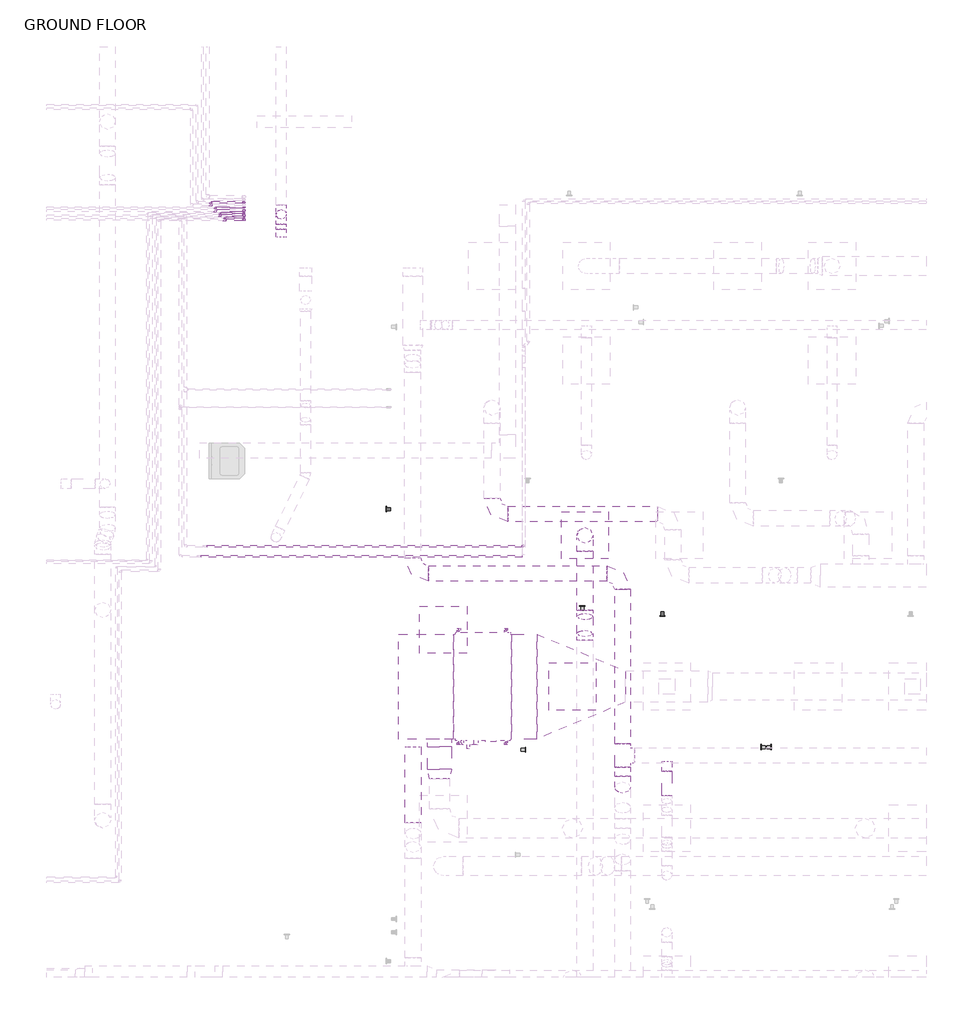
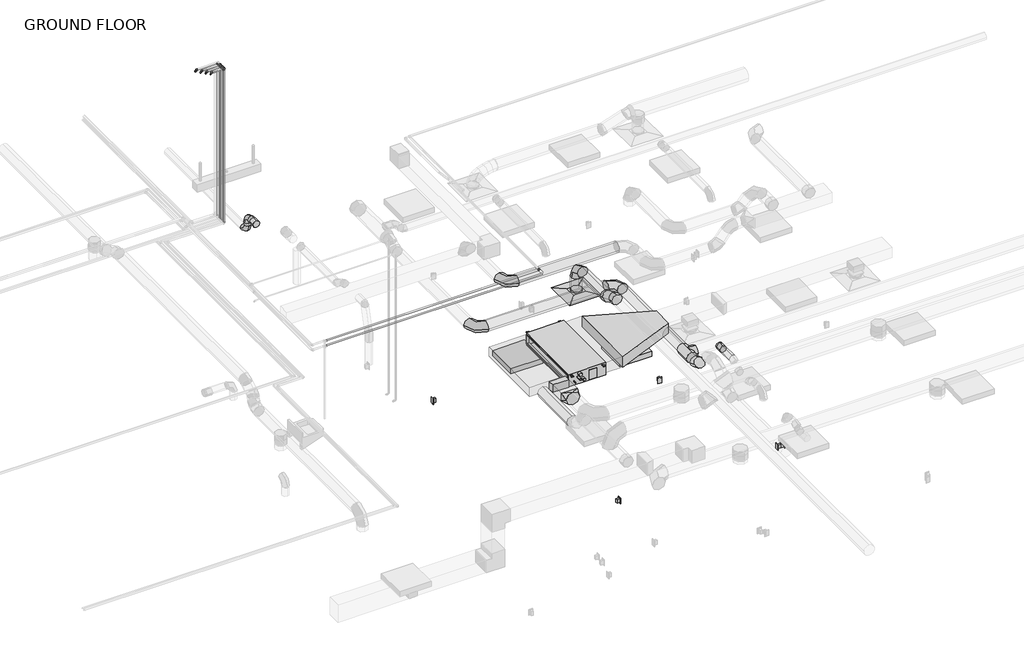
# One storey, part 13 of 20: 16 pipe fittings, 16 pipe segments, 15 duct fittings, 14 duct segments, 5 proxies, 2 light fixtures, 2 switching devices, 1 air terminal.
"""IFC4 building model written with IfcOpenShell, lengths in millimetres."""

from ifc_helpers import new_model, si_unit, point, frame, frame_2d, origin, place, context, project, spatial, polyline, circle_curve, trimmed, segment, composite_curve, outline, extrude, transform, mapped, element, save
from components import air_terminal_e9020785, mechanical_equipment_d478180c, duplex_receptacle_countertop_10251bba, rectangular_takeoff_standard_fde45e03, rectangular_transition_angle_45_degree_85914557, rectangular_to_round_transition_angle_45_degree_789dc1ad, round_elbow_1_d_9b139ee9, round_elbow_1_d_a253342a, round_elbow_1_d_c80420c1, round_elbow_1_d_ab3aa7ba, round_takeoff_standard_272bb003, round_takeoff_standard_fb854549, round_tee_standard_4a79b710, troffer_corner_insert_2x2_3lamp_e67c7f8f, elbow_generic_standard_c06ac706, elbow_generic_standard_738589b0, elbow_generic_standard_a088f956

model = new_model("IFC4")

# Units and contexts
model_context = context("Model", 3, world=origin())
ifc_project = project(units=[si_unit("LENGTHUNIT", "METRE", prefix="MILLI")], contexts=[model_context])

# Site, building, storey
site = spatial("IfcSite", under=ifc_project)
building = spatial("IfcBuilding", under=site)
storey = spatial("IfcBuildingStorey", under=building, Name="GROUND FLOOR", Elevation=30480.0)

# Air terminal
placement = place(None, origin())
air_terminal_shape = air_terminal_e9020785(model_context)
element("IfcAirTerminal", 1, ObjectType="Supply Diffuser - Rectangular Face Round Neck - Hosted : 24\"x24\" Face 8\" Neck - Hosted", at=placement, inside=storey, context=model_context, shape_type="MappedRepresentation", body=[
    mapped(air_terminal_shape, transform((-5028.2454607, 3334.7445005, 33223.2), x_axis=(0.0, -1.0, 0.0), y_axis=(-1.0, 0.0, 0.0), z_axis=(0.0, 0.0, -1.0))),
])

# Proxies
mechanical_equipment_shape = mechanical_equipment_d478180c(model_context)
element("IfcBuildingElementProxy", 2, Name="PEFY-P-NMAU-E_Medium_Static_Ducted : PEFY-P36NMAU-E", ObjectType="PEFY-P-NMAU-E_Medium_Static_Ducted : PEFY-P36NMAU-E", at=placement, inside=storey, context=model_context, shape_type="MappedRepresentation", body=[
    mapped(mechanical_equipment_shape, transform((-6407.5018914, 1372.1072576, 33458.15), x_axis=(0.0, -1.0, 0.0), y_axis=(1.0, 0.0, 0.0), z_axis=(0.0, 0.0, 1.0))),
])
duplex_receptacle_countertop_shape = duplex_receptacle_countertop_10251bba(model_context)
element("IfcBuildingElementProxy", 3, Name="Duplex Receptacle : Standard", ObjectType="Duplex Receptacle : Standard", at=placement, inside=storey, context=model_context, shape_type="MappedRepresentation", body=[
    mapped(duplex_receptacle_countertop_shape, transform((-2627.9454607, 600.4356606, 30937.2), x_axis=(0.0, 1.0, 0.0), y_axis=(0.0, 0.0, 1.0), z_axis=(1.0, 0.0, 0.0))),
])
element("IfcBuildingElementProxy", 4, Name="Duplex Receptacle : Standard", ObjectType="Duplex Receptacle : Standard", at=placement, inside=storey, context=model_context, shape_type="MappedRepresentation", body=[
    mapped(duplex_receptacle_countertop_shape, transform((-2751.7704607, 600.4356606, 30937.2), x_axis=(0.0, -1.0, 0.0), y_axis=(0.0, 0.0, 1.0), z_axis=(-1.0, 0.0, 0.0))),
])
element("IfcBuildingElementProxy", 5, Name="Duplex Receptacle : Standard", ObjectType="Duplex Receptacle : Standard", at=placement, inside=storey, context=model_context, shape_type="MappedRepresentation", body=[
    mapped(duplex_receptacle_countertop_shape, transform((-5799.7704607, 567.377149, 30937.2), x_axis=(0.0, 1.0, 0.0), y_axis=(0.0, 0.0, 1.0), z_axis=(1.0, 0.0, 0.0))),
])
element("IfcBuildingElementProxy", 6, Name="Duplex Receptacle : Standard", ObjectType="Duplex Receptacle : Standard", at=placement, inside=storey, context=model_context, shape_type="MappedRepresentation", body=[
    mapped(duplex_receptacle_countertop_shape, transform((-5062.4392218, 2420.3445005, 30937.2), x_axis=(-1.0, 0.0, 0.0), y_axis=(0.0, 0.0, 1.0), z_axis=(0.0, 1.0, 0.0))),
])

# Duct fittings
rectangular_takeoff_standard_shape = rectangular_takeoff_standard_fde45e03(model_context)
element("IfcDuctFitting", 7, ObjectType="Rectangular Takeoff : Standard", at=placement, inside=storey, context=model_context, shape_type="MappedRepresentation", body=[
    mapped(rectangular_takeoff_standard_shape, transform((-6907.4143044, 704.2570005, 33617.69375), x_axis=(0.0, -1.0, 0.0), y_axis=(-1.0, 0.0, 0.0), z_axis=(0.0, 0.0, -1.0))),
])
rectangular_transition_angle_45_degree_shape = rectangular_transition_angle_45_degree_85914557(model_context)
element("IfcDuctFitting", 8, ObjectType="Rectangular Transition - Angle : 45 Degree", at=placement, inside=storey, context=model_context, shape_type="MappedRepresentation", body=[
    mapped(rectangular_transition_angle_45_degree_shape, transform((-5651.3200089, 1382.1195005, 33604.2), x_axis=(1.0, 0.0, 0.0), y_axis=(0.0, 1.0, 0.0), z_axis=(0.0, 0.0, 1.0))),
])
rectangular_to_round_transition_angle_45_degree_shape = rectangular_to_round_transition_angle_45_degree_789dc1ad(model_context)
element("IfcDuctFitting", 9, ObjectType="Rectangular to Round Transition - Angle : 45 Degree", at=placement, inside=storey, context=model_context, shape_type="MappedRepresentation", body=[
    mapped(rectangular_to_round_transition_angle_45_degree_shape, transform((-6907.4143044, 315.3195005, 33617.69375), x_axis=(0.0, -1.0, 0.0), y_axis=(1.0, 0.0, 0.0), z_axis=(0.0, 0.0, 1.0))),
])
round_elbow_1_d_shape = round_elbow_1_d_9b139ee9(model_context)
element("IfcDuctFitting", 10, ObjectType="Round Elbow : 1 D", at=placement, inside=storey, context=model_context, shape_type="MappedRepresentation", body=[
    mapped(round_elbow_1_d_shape, transform((-5028.2454607, 2325.0945005, 33743.160826), x_axis=(0.0, -1.0, 0.0), y_axis=(0.0, 0.0, 1.0), z_axis=(-1.0, 0.0, 0.0))),
])
element("IfcDuctFitting", 11, ObjectType="Round Elbow : 1 D", at=placement, inside=storey, context=model_context, shape_type="MappedRepresentation", body=[
    mapped(round_elbow_1_d_shape, transform((-5028.2454607, 2026.1149962, 33877.25), x_axis=(0.0, -0.9124365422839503, 0.4092182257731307), y_axis=(0.0, -0.4092182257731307, -0.9124365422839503), z_axis=(1.0, 0.0, 0.0))),
])
round_elbow_1_d_2_shape = round_elbow_1_d_a253342a(model_context)
element("IfcDuctFitting", 12, ObjectType="Round Elbow : 1 D", at=placement, inside=storey, context=model_context, shape_type="MappedRepresentation", body=[
    mapped(round_elbow_1_d_2_shape, transform((-5028.2454607, 3334.7445005, 33743.160826), x_axis=(0.0, 0.0, 1.0), y_axis=(0.0, -1.0, 0.0), z_axis=(1.0, 0.0, 0.0))),
])
element("IfcDuctFitting", 13, ObjectType="Round Elbow : 1 D", at=placement, inside=storey, context=model_context, shape_type="MappedRepresentation", body=[
    mapped(round_elbow_1_d_2_shape, transform((-6228.3954607, 3610.9695005, 33629.6), x_axis=(0.0, -1.0, 0.0), y_axis=(1.0, 0.0, 0.0), z_axis=(0.0, 0.0, 1.0))),
])
element("IfcDuctFitting", 14, ObjectType="Round Elbow : 1 D", at=placement, inside=storey, context=model_context, shape_type="MappedRepresentation", body=[
    mapped(round_elbow_1_d_2_shape, transform((-4541.976464, 2841.896647, 33528.0), x_axis=(0.0, 1.0, 0.0), y_axis=(-1.0, 0.0, 0.0), z_axis=(0.0, 0.0, 1.0))),
])
element("IfcDuctFitting", 15, ObjectType="Round Elbow : 1 D", at=placement, inside=storey, context=model_context, shape_type="MappedRepresentation", body=[
    mapped(round_elbow_1_d_2_shape, transform((-7253.9204607, 2841.896647, 33528.0), x_axis=(0.0, -1.0, 0.0), y_axis=(1.0, 0.0, 0.0), z_axis=(0.0, 0.0, 1.0))),
])
round_elbow_1_d_3_shape = round_elbow_1_d_c80420c1(model_context)
element("IfcDuctFitting", 16, ObjectType="Round Elbow : 1 D", at=placement, inside=storey, context=model_context, shape_type="MappedRepresentation", body=[
    mapped(round_elbow_1_d_3_shape, transform((-8950.9579607, 7478.1195005, 33629.6), x_axis=(0.0, 0.0, 1.0), y_axis=(0.0, -1.0, 0.0), z_axis=(1.0, 0.0, 0.0))),
])
element("IfcDuctFitting", 17, ObjectType="Round Elbow : 1 D", at=placement, inside=storey, context=model_context, shape_type="MappedRepresentation", body=[
    mapped(round_elbow_1_d_3_shape, transform((-8950.9579607, 7478.1195005, 33324.8), x_axis=(0.0, 0.0, -1.0), y_axis=(0.0, 1.0, 0.0), z_axis=(1.0, 0.0, 0.0))),
])
round_elbow_1_d_4_shape = round_elbow_1_d_ab3aa7ba(model_context)
element("IfcDuctFitting", 18, ObjectType="Round Elbow : 1 D", at=placement, inside=storey, context=model_context, shape_type="MappedRepresentation", body=[
    mapped(round_elbow_1_d_4_shape, transform((-4541.976464, 139.5450374, 33528.0), x_axis=(0.0, 0.7071067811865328, -0.7071067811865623), y_axis=(0.0, 0.7071067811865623, 0.7071067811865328), z_axis=(1.0, 0.0, 0.0))),
])
round_takeoff_standard_shape = round_takeoff_standard_272bb003(model_context)
element("IfcDuctFitting", 19, ObjectType="Round Takeoff : Standard", at=placement, inside=storey, context=model_context, shape_type="MappedRepresentation", body=[
    mapped(round_takeoff_standard_shape, transform((-3970.9704607, 391.7414929, 33528.0), x_axis=(0.0, -1.0, 0.0), y_axis=(-1.0, 0.0, 0.0), z_axis=(0.0, 0.0, -1.0))),
])
round_takeoff_standard_2_shape = round_takeoff_standard_fb854549(model_context)
element("IfcDuctFitting", 20, ObjectType="Round Takeoff : Standard", at=placement, inside=storey, context=model_context, shape_type="MappedRepresentation", body=[
    mapped(round_takeoff_standard_2_shape, transform((-8950.9579607, 7187.8293332, 33629.6), x_axis=(0.0, 1.0, 0.0), y_axis=(1.0, 0.0, 0.0), z_axis=(0.0, 0.0, -1.0))),
])
round_tee_standard_shape = round_tee_standard_4a79b710(model_context)
element("IfcDuctFitting", 21, ObjectType="Round Tee : Standard", at=placement, inside=storey, context=model_context, shape_type="MappedRepresentation", body=[
    mapped(round_tee_standard_shape, transform((-4541.976464, 493.3414929, 33528.0), x_axis=(0.0, 1.0, 0.0), y_axis=(-1.0, 0.0, 0.0), z_axis=(0.0, 0.0, 1.0))),
])

# Duct segments
element("IfcDuctSegment", 22, ObjectType="Mitered Elbows / Taps", at=placement, inside=storey, context=model_context, shape_type="SweptSolid", body=[
    extrude(outline(polyline([(-6725.0018914, 2059.9820005), (-6725.0018914, 704.2570005), (-7438.8450089, 704.2570005), (-7438.8450089, 2059.9820005), (-6725.0018914, 2059.9820005)])), frame((0.0, 0.0, 33528.0), z_axis=(0.0, 0.0, 1.0), x_axis=(1.0, 0.0, 0.0)), (0.0, 0.0, 1.0), 179.3875),
])
element("IfcDuctSegment", 23, ObjectType="Mitered Elbows / Taps", at=placement, inside=storey, context=model_context, shape_type="SweptSolid", body=[
    extrude(outline(polyline([(-5978.8768914, 704.2570005), (-5978.8768914, 2059.9820005), (-5651.3200089, 2059.9820005), (-5651.3200089, 704.2570005), (-5978.8768914, 704.2570005)])), frame((0.0, 0.0, 33501.0125), z_axis=(0.0, 0.0, 1.0), x_axis=(1.0, 0.0, 0.0)), (0.0, 0.0, 1.0), 206.375),
])
element("IfcDuctSegment", 24, ObjectType="Mitered Elbows / Taps", at=placement, inside=storey, context=model_context, shape_type="SweptSolid", body=[
    extrude(outline(polyline([(-7059.8143044, 602.6570005), (-6755.0143044, 602.6570005), (-6755.0143044, 315.3195005), (-7059.8143044, 315.3195005), (-7059.8143044, 602.6570005)])), frame((0.0, 0.0, 33541.49375), z_axis=(0.0, 0.0, 1.0), x_axis=(1.0, 0.0, 0.0)), (0.0, 0.0, 1.0), 152.4),
])
element("IfcDuctSegment", 25, ObjectType="Taps / Short Radius", at=placement, inside=storey, context=model_context, shape_type="SweptSolid", body=[
    extrude(outline(composite_curve([segment(trimmed(circle_curve(frame_2d((-8950.9579607, 7478.1195005)), 63.5), [point((-9014.4579607, 7478.1195005))], [point((-8950.9579607, 7541.6195005))], False, "CARTESIAN"), True, "CONTINUOUS"), segment(trimmed(circle_curve(frame_2d((-8950.9579607, 7478.1195005)), 63.5), [point((-8950.9579607, 7541.6195005))], [point((-8887.4579607, 7478.1195005))], False, "CARTESIAN"), True, "CONTINUOUS"), segment(trimmed(circle_curve(frame_2d((-8950.9579607, 7478.1195005)), 63.5), [point((-8887.4579607, 7478.1195005))], [point((-8950.9579607, 7414.6195005))], False, "CARTESIAN"), True, "CONTINUOUS"), segment(trimmed(circle_curve(frame_2d((-8950.9579607, 7478.1195005)), 63.5), [point((-8950.9579607, 7414.6195005))], [point((-9014.4579607, 7478.1195005))], False, "CARTESIAN"), True, "CONTINUOUS")], self_intersect=False)), frame((0.0, 0.0, 33451.8), z_axis=(0.0, 0.0, 1.0), x_axis=(1.0, 0.0, 0.0)), (0.0, 0.0, 1.0), 50.8),
])
element("IfcDuctSegment", 26, ObjectType="Taps / Short Radius", at=placement, inside=storey, context=model_context, shape_type="SweptSolid", body=[
    extrude(outline(composite_curve([segment(trimmed(circle_curve(frame_2d((33629.6, -8950.9579607)), 63.5), [point((33629.6, -8887.4579607))], [point((33693.1, -8950.9579607))], False, "CARTESIAN"), True, "CONTINUOUS"), segment(trimmed(circle_curve(frame_2d((33629.6, -8950.9579607)), 63.5), [point((33693.1, -8950.9579607))], [point((33629.6, -9014.4579607))], False, "CARTESIAN"), True, "CONTINUOUS"), segment(trimmed(circle_curve(frame_2d((33629.6, -8950.9579607)), 63.5), [point((33629.6, -9014.4579607))], [point((33566.1, -8950.9579607))], False, "CARTESIAN"), True, "CONTINUOUS"), segment(trimmed(circle_curve(frame_2d((33629.6, -8950.9579607)), 63.5), [point((33566.1, -8950.9579607))], [point((33629.6, -8887.4579607))], False, "CARTESIAN"), True, "CONTINUOUS")], self_intersect=False)), frame((0.0, 7289.4293332, 0.0), z_axis=(0.0, 1.0, 0.0), x_axis=(0.0, 0.0, 1.0)), (0.0, 0.0, 1.0), 61.6901673),
])
element("IfcDuctSegment", 27, ObjectType="Taps / Short Radius", at=placement, inside=storey, context=model_context, shape_type="SweptSolid", body=[
    extrude(outline(composite_curve([segment(trimmed(circle_curve(frame_2d((-5028.2454607, 3334.7445005)), 101.6), [point((-5129.8454607, 3334.7445005))], [point((-5028.2454607, 3436.3445005))], False, "CARTESIAN"), True, "CONTINUOUS"), segment(trimmed(circle_curve(frame_2d((-5028.2454607, 3334.7445005)), 101.6), [point((-5028.2454607, 3436.3445005))], [point((-4926.6454607, 3334.7445005))], False, "CARTESIAN"), True, "CONTINUOUS"), segment(trimmed(circle_curve(frame_2d((-5028.2454607, 3334.7445005)), 101.6), [point((-4926.6454607, 3334.7445005))], [point((-5028.2454607, 3233.1445005))], False, "CARTESIAN"), True, "CONTINUOUS"), segment(trimmed(circle_curve(frame_2d((-5028.2454607, 3334.7445005)), 101.6), [point((-5028.2454607, 3233.1445005))], [point((-5129.8454607, 3334.7445005))], False, "CARTESIAN"), True, "CONTINUOUS")], self_intersect=False)), frame((0.0, 0.0, 33277.175), z_axis=(0.0, 0.0, 1.0), x_axis=(1.0, 0.0, 0.0)), (0.0, 0.0, 1.0), 262.785826),
])
element("IfcDuctSegment", 28, ObjectType="Taps / Short Radius", at=placement, inside=storey, context=model_context, shape_type="SweptSolid", body=[
    extrude(outline(composite_curve([segment(trimmed(circle_curve(frame_2d((3610.9695005, 33629.6)), 101.6), [point((3509.3695005, 33629.6))], [point((3610.9695005, 33731.2))], False, "CARTESIAN"), True, "CONTINUOUS"), segment(trimmed(circle_curve(frame_2d((3610.9695005, 33629.6)), 101.6), [point((3610.9695005, 33731.2))], [point((3712.5695005, 33629.6))], False, "CARTESIAN"), True, "CONTINUOUS"), segment(trimmed(circle_curve(frame_2d((3610.9695005, 33629.6)), 101.6), [point((3712.5695005, 33629.6))], [point((3610.9695005, 33528.0))], False, "CARTESIAN"), True, "CONTINUOUS"), segment(trimmed(circle_curve(frame_2d((3610.9695005, 33629.6)), 101.6), [point((3610.9695005, 33528.0))], [point((3509.3695005, 33629.6))], False, "CARTESIAN"), True, "CONTINUOUS")], self_intersect=False)), frame((-6025.1954607, 0.0, 0.0), z_axis=(1.0, 0.0, 0.0), x_axis=(0.0, 1.0, 0.0)), (0.0, 0.0, 1.0), 1930.4),
])
element("IfcDuctSegment", 29, ObjectType="Taps / Short Radius", at=placement, inside=storey, context=model_context, shape_type="SweptSolid", body=[
    extrude(outline(composite_curve([segment(trimmed(circle_curve(frame_2d((33617.69375, -7247.6134283)), 101.6), [point((33617.69375, -7349.2134283))], [point((33516.09375, -7247.6134283))], False, "CARTESIAN"), True, "CONTINUOUS"), segment(trimmed(circle_curve(frame_2d((33617.69375, -7247.6134283)), 101.6), [point((33516.09375, -7247.6134283))], [point((33617.69375, -7146.0134283))], False, "CARTESIAN"), True, "CONTINUOUS"), segment(trimmed(circle_curve(frame_2d((33617.69375, -7247.6134283)), 101.6), [point((33617.69375, -7146.0134283))], [point((33719.29375, -7247.6134283))], False, "CARTESIAN"), True, "CONTINUOUS"), segment(trimmed(circle_curve(frame_2d((33617.69375, -7247.6134283)), 101.6), [point((33719.29375, -7247.6134283))], [point((33617.69375, -7349.2134283))], False, "CARTESIAN"), True, "CONTINUOUS")], self_intersect=False)), frame((0.0, -372.4290959, 0.0), z_axis=(0.0, 1.0, 0.0), x_axis=(0.0, 0.0, 1.0)), (0.0, 0.0, 1.0), 975.0860964),
])
element("IfcDuctSegment", 30, ObjectType="Taps / Short Radius", at=placement, inside=storey, context=model_context, shape_type="SweptSolid", body=[
    extrude(outline(composite_curve([segment(trimmed(circle_curve(frame_2d((33528.0, -4541.976464)), 101.6), [point((33528.0, -4440.376464))], [point((33629.6, -4541.976464))], False, "CARTESIAN"), True, "CONTINUOUS"), segment(trimmed(circle_curve(frame_2d((33528.0, -4541.976464)), 101.6), [point((33629.6, -4541.976464))], [point((33528.0, -4643.576464))], False, "CARTESIAN"), True, "CONTINUOUS"), segment(trimmed(circle_curve(frame_2d((33528.0, -4541.976464)), 101.6), [point((33528.0, -4643.576464))], [point((33426.4, -4541.976464))], False, "CARTESIAN"), True, "CONTINUOUS"), segment(trimmed(circle_curve(frame_2d((33528.0, -4541.976464)), 101.6), [point((33426.4, -4541.976464))], [point((33528.0, -4440.376464))], False, "CARTESIAN"), True, "CONTINUOUS")], self_intersect=False)), frame((0.0, 645.7414929, 0.0), z_axis=(0.0, 1.0, 0.0), x_axis=(0.0, 0.0, 1.0)), (0.0, 0.0, 1.0), 1992.955154),
])
element("IfcDuctSegment", 31, ObjectType="Taps / Short Radius", at=placement, inside=storey, context=model_context, shape_type="SweptSolid", body=[
    extrude(outline(composite_curve([segment(trimmed(circle_curve(frame_2d((2841.896647, 33528.0)), 101.6), [point((2943.496647, 33528.0))], [point((2841.896647, 33426.4))], False, "CARTESIAN"), True, "CONTINUOUS"), segment(trimmed(circle_curve(frame_2d((2841.896647, 33528.0)), 101.6), [point((2841.896647, 33426.4))], [point((2740.296647, 33528.0))], False, "CARTESIAN"), True, "CONTINUOUS"), segment(trimmed(circle_curve(frame_2d((2841.896647, 33528.0)), 101.6), [point((2740.296647, 33528.0))], [point((2841.896647, 33629.6))], False, "CARTESIAN"), True, "CONTINUOUS"), segment(trimmed(circle_curve(frame_2d((2841.896647, 33528.0)), 101.6), [point((2841.896647, 33629.6))], [point((2943.496647, 33528.0))], False, "CARTESIAN"), True, "CONTINUOUS")], self_intersect=False)), frame((-7050.7204607, 0.0, 0.0), z_axis=(1.0, 0.0, 0.0), x_axis=(0.0, 1.0, 0.0)), (0.0, 0.0, 1.0), 2305.5439967),
])
element("IfcDuctSegment", 32, ObjectType="Taps / Short Radius", at=placement, inside=storey, context=model_context, shape_type="SweptSolid", body=[
    extrude(outline(composite_curve([segment(trimmed(circle_curve(frame_2d((33528.0, -3970.9704607)), 63.5), [point((33528.0, -3907.4704607))], [point((33591.5, -3970.9704607))], False, "CARTESIAN"), True, "CONTINUOUS"), segment(trimmed(circle_curve(frame_2d((33528.0, -3970.9704607)), 63.5), [point((33591.5, -3970.9704607))], [point((33528.0, -4034.4704607))], False, "CARTESIAN"), True, "CONTINUOUS"), segment(trimmed(circle_curve(frame_2d((33528.0, -3970.9704607)), 63.5), [point((33528.0, -4034.4704607))], [point((33464.5, -3970.9704607))], False, "CARTESIAN"), True, "CONTINUOUS"), segment(trimmed(circle_curve(frame_2d((33528.0, -3970.9704607)), 63.5), [point((33464.5, -3970.9704607))], [point((33528.0, -3907.4704607))], False, "CARTESIAN"), True, "CONTINUOUS")], self_intersect=False)), frame((0.0, -23.6803249, 0.0), z_axis=(0.0, 1.0, 0.0), x_axis=(0.0, 0.0, 1.0)), (0.0, 0.0, 1.0), 313.8218179),
])
element("IfcDuctSegment", 33, ObjectType="Taps / Short Radius", at=placement, inside=storey, context=model_context, shape_type="SweptSolid", body=[
    extrude(outline(composite_curve([segment(trimmed(circle_curve(frame_2d((33528.0, -4541.976464)), 101.6), [point((33528.0, -4440.376464))], [point((33629.6, -4541.976464))], False, "CARTESIAN"), True, "CONTINUOUS"), segment(trimmed(circle_curve(frame_2d((33528.0, -4541.976464)), 101.6), [point((33629.6, -4541.976464))], [point((33528.0, -4643.576464))], False, "CARTESIAN"), True, "CONTINUOUS"), segment(trimmed(circle_curve(frame_2d((33528.0, -4541.976464)), 101.6), [point((33528.0, -4643.576464))], [point((33426.4, -4541.976464))], False, "CARTESIAN"), True, "CONTINUOUS"), segment(trimmed(circle_curve(frame_2d((33528.0, -4541.976464)), 101.6), [point((33426.4, -4541.976464))], [point((33528.0, -4440.376464))], False, "CARTESIAN"), True, "CONTINUOUS")], self_intersect=False)), frame((0.0, 223.7132333, 0.0), z_axis=(0.0, 1.0, 0.0), x_axis=(0.0, 0.0, 1.0)), (0.0, 0.0, 1.0), 117.2282596),
])
element("IfcDuctSegment", 34, ObjectType="Taps / Short Radius", at=placement, inside=storey, context=model_context, shape_type="SweptSolid", body=[
    extrude(outline(composite_curve([segment(trimmed(circle_curve(frame_2d((33743.160826, -5028.2454607)), 101.6), [point((33743.160826, -5129.8454607))], [point((33641.560826, -5028.2454607))], False, "CARTESIAN"), True, "CONTINUOUS"), segment(trimmed(circle_curve(frame_2d((33743.160826, -5028.2454607)), 101.6), [point((33641.560826, -5028.2454607))], [point((33743.160826, -4926.6454607))], False, "CARTESIAN"), True, "CONTINUOUS"), segment(trimmed(circle_curve(frame_2d((33743.160826, -5028.2454607)), 101.6), [point((33743.160826, -4926.6454607))], [point((33844.760826, -5028.2454607))], False, "CARTESIAN"), True, "CONTINUOUS"), segment(trimmed(circle_curve(frame_2d((33743.160826, -5028.2454607)), 101.6), [point((33844.760826, -5028.2454607))], [point((33743.160826, -5129.8454607))], False, "CARTESIAN"), True, "CONTINUOUS")], self_intersect=False)), frame((0.0, 2368.574711, 0.0), z_axis=(0.0, 1.0, 0.0), x_axis=(0.0, 0.0, 1.0)), (0.0, 0.0, 1.0), 762.9697895),
])
element("IfcDuctSegment", 35, ObjectType="Taps / Short Radius", at=placement, inside=storey, context=model_context, shape_type="SweptSolid", body=[
    extrude(outline(composite_curve([segment(trimmed(circle_curve(frame_2d((0.0, -101.6)), 101.6), [point((101.6, -101.6))], [point((0.0, -203.2))], False, "CARTESIAN"), True, "CONTINUOUS"), segment(trimmed(circle_curve(frame_2d((0.0, -101.6)), 101.6), [point((0.0, -203.2))], [point((-101.6, -101.6))], False, "CARTESIAN"), True, "CONTINUOUS"), segment(trimmed(circle_curve(frame_2d((0.0, -101.6)), 101.6), [point((-101.6, -101.6))], [point((0.0, 0.0))], False, "CARTESIAN"), True, "CONTINUOUS"), segment(trimmed(circle_curve(frame_2d((0.0, -101.6)), 101.6), [point((0.0, 0.0))], [point((101.6, -101.6))], False, "CARTESIAN"), True, "CONTINUOUS")], self_intersect=False)), frame((-5028.2454607, 2326.9981393, 33853.6572733), z_axis=(0.0, -0.9124365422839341, 0.40921822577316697), x_axis=(1.0, 0.0, 0.0)), (0.0, 0.0, 1.0), 240.711138),
])

# Light fixtures
troffer_corner_insert_2x2_3lamp_shape = troffer_corner_insert_2x2_3lamp_e67c7f8f(model_context)
element("IfcLightFixture", 36, ObjectType="Troffer Corner Insert : 2x2 3Lamp", at=placement, inside=storey, context=model_context, shape_type="MappedRepresentation", body=[
    mapped(troffer_corner_insert_2x2_3lamp_shape, transform((-5190.1704607, 1382.1195005, 30784.8), x_axis=(1.0, 0.0, 0.0), y_axis=(0.0, 1.0, 0.0), z_axis=(0.0, 0.0, 1.0))),
])
element("IfcLightFixture", 37, ObjectType="Troffer Corner Insert : 2x2 3Lamp", at=placement, inside=storey, context=model_context, shape_type="MappedRepresentation", body=[
    mapped(troffer_corner_insert_2x2_3lamp_shape, transform((-6857.0454607, 2115.5445005, 30784.8), x_axis=(1.0, 0.0, 0.0), y_axis=(0.0, 1.0, 0.0), z_axis=(0.0, 0.0, 1.0))),
])

# Pipe fittings
elbow_generic_standard_shape = elbow_generic_standard_c06ac706(model_context)
element("IfcPipeFitting", 38, ObjectType="Elbow - Generic : Standard", at=placement, inside=storey, context=model_context, shape_type="MappedRepresentation", body=[
    mapped(elbow_generic_standard_shape, transform((-9866.3353043, 7600.6601211, 36830.0), x_axis=(-1.0, 0.0, 0.0), y_axis=(0.0, -1.0, 0.0), z_axis=(0.0, 0.0, 1.0))),
])
element("IfcPipeFitting", 39, ObjectType="Elbow - Generic : Standard", at=placement, inside=storey, context=model_context, shape_type="MappedRepresentation", body=[
    mapped(elbow_generic_standard_shape, transform((-9429.5892107, 7528.3379884, 36830.0), x_axis=(0.0, 0.0, 1.0), y_axis=(-1.0, 0.0, 0.0), z_axis=(0.0, -1.0, 0.0))),
])
element("IfcPipeFitting", 40, ObjectType="Elbow - Generic : Standard", at=placement, inside=storey, context=model_context, shape_type="MappedRepresentation", body=[
    mapped(elbow_generic_standard_shape, transform((-9806.3353043, 7528.3379884, 36830.0), x_axis=(-1.0, 0.0, 0.0), y_axis=(0.0, -1.0, 0.0), z_axis=(0.0, 0.0, 1.0))),
])
element("IfcPipeFitting", 41, ObjectType="Elbow - Generic : Standard", at=placement, inside=storey, context=model_context, shape_type="MappedRepresentation", body=[
    mapped(elbow_generic_standard_shape, transform((-9429.5892107, 7465.7928353, 36830.0), x_axis=(0.0, 0.0, 1.0), y_axis=(-1.0, 0.0, 0.0), z_axis=(0.0, -1.0, 0.0))),
])
element("IfcPipeFitting", 42, ObjectType="Elbow - Generic : Standard", at=placement, inside=storey, context=model_context, shape_type="MappedRepresentation", body=[
    mapped(elbow_generic_standard_shape, transform((-9746.3353043, 7465.7928353, 36830.0), x_axis=(-1.0, 0.0, 0.0), y_axis=(0.0, -1.0, 0.0), z_axis=(0.0, 0.0, 1.0))),
])
element("IfcPipeFitting", 43, ObjectType="Elbow - Generic : Standard", at=placement, inside=storey, context=model_context, shape_type="MappedRepresentation", body=[
    mapped(elbow_generic_standard_shape, transform((-9429.5892107, 7409.7014345, 36830.0), x_axis=(0.0, 0.0, 1.0), y_axis=(-1.0, 0.0, 0.0), z_axis=(0.0, -1.0, 0.0))),
])
element("IfcPipeFitting", 44, ObjectType="Elbow - Generic : Standard", at=placement, inside=storey, context=model_context, shape_type="MappedRepresentation", body=[
    mapped(elbow_generic_standard_shape, transform((-9686.3353043, 7409.7014345, 36830.0), x_axis=(-1.0, 0.0, 0.0), y_axis=(0.0, -1.0, 0.0), z_axis=(0.0, 0.0, 1.0))),
])
element("IfcPipeFitting", 45, ObjectType="Elbow - Generic : Standard", at=placement, inside=storey, context=model_context, shape_type="MappedRepresentation", body=[
    mapped(elbow_generic_standard_shape, transform((-5818.8204607, 3193.0718518, 34023.2981384), x_axis=(1.0, 0.0, 0.0), y_axis=(0.0, 1.0, 0.0), z_axis=(0.0, 0.0, 1.0))),
])
elbow_generic_standard_2_shape = elbow_generic_standard_738589b0(model_context)
element("IfcPipeFitting", 46, ObjectType="Elbow - Generic : Standard", at=placement, inside=storey, context=model_context, shape_type="MappedRepresentation", body=[
    mapped(elbow_generic_standard_2_shape, transform((-9429.5892107, 7633.6461875, 36779.2), x_axis=(0.0, 0.0, 1.0), y_axis=(-1.0, 0.0, 0.0), z_axis=(0.0, -1.0, 0.0))),
])
element("IfcPipeFitting", 47, ObjectType="Elbow - Generic : Standard", at=placement, inside=storey, context=model_context, shape_type="MappedRepresentation", body=[
    mapped(elbow_generic_standard_2_shape, transform((-9866.3353043, 7633.6461875, 36779.2), x_axis=(-1.0, 0.0, 0.0), y_axis=(0.0, -1.0, 0.0), z_axis=(0.0, 0.0, 1.0))),
])
element("IfcPipeFitting", 48, ObjectType="Elbow - Generic : Standard", at=placement, inside=storey, context=model_context, shape_type="MappedRepresentation", body=[
    mapped(elbow_generic_standard_2_shape, transform((-9429.5892107, 7567.6740548, 36779.2), x_axis=(0.0, 0.0, 1.0), y_axis=(-1.0, 0.0, 0.0), z_axis=(0.0, -1.0, 0.0))),
])
element("IfcPipeFitting", 49, ObjectType="Elbow - Generic : Standard", at=placement, inside=storey, context=model_context, shape_type="MappedRepresentation", body=[
    mapped(elbow_generic_standard_2_shape, transform((-9806.3353043, 7567.6740548, 36779.2), x_axis=(-1.0, 0.0, 0.0), y_axis=(0.0, -1.0, 0.0), z_axis=(0.0, 0.0, 1.0))),
])
elbow_generic_standard_3_shape = elbow_generic_standard_a088f956(model_context)
element("IfcPipeFitting", 50, ObjectType="Elbow - Generic : Standard", at=placement, inside=storey, context=model_context, shape_type="MappedRepresentation", body=[
    mapped(elbow_generic_standard_3_shape, transform((-9429.5892107, 7495.3519221, 36779.2), x_axis=(0.0, 0.0, 1.0), y_axis=(-1.0, 0.0, 0.0), z_axis=(0.0, -1.0, 0.0))),
])
element("IfcPipeFitting", 51, ObjectType="Elbow - Generic : Standard", at=placement, inside=storey, context=model_context, shape_type="MappedRepresentation", body=[
    mapped(elbow_generic_standard_3_shape, transform((-9746.3353043, 7495.3519221, 36779.2), x_axis=(-1.0, 0.0, 0.0), y_axis=(0.0, -1.0, 0.0), z_axis=(0.0, 0.0, 1.0))),
])
element("IfcPipeFitting", 52, ObjectType="Elbow - Generic : Standard", at=placement, inside=storey, context=model_context, shape_type="MappedRepresentation", body=[
    mapped(elbow_generic_standard_3_shape, transform((-9429.5892107, 7438.5314076, 36779.2), x_axis=(0.0, 0.0, 1.0), y_axis=(-1.0, 0.0, 0.0), z_axis=(0.0, -1.0, 0.0))),
])
element("IfcPipeFitting", 53, ObjectType="Elbow - Generic : Standard", at=placement, inside=storey, context=model_context, shape_type="MappedRepresentation", body=[
    mapped(elbow_generic_standard_3_shape, transform((-9686.3353043, 7438.5314076, 36779.2), x_axis=(-1.0, 0.0, 0.0), y_axis=(0.0, -1.0, 0.0), z_axis=(0.0, 0.0, 1.0))),
])

# Pipe segments
element("IfcPipeSegment", 54, ObjectType="Copper Tubing", at=placement, inside=storey, context=model_context, shape_type="SweptSolid", body=[
    extrude(outline(composite_curve([segment(trimmed(circle_curve(frame_2d((-9429.5892107, 7528.3379884)), 14.2875), [point((-9443.8767107, 7528.3379884))], [point((-9429.5892107, 7542.6254884))], False, "CARTESIAN"), True, "CONTINUOUS"), segment(trimmed(circle_curve(frame_2d((-9429.5892107, 7528.3379884)), 14.2875), [point((-9429.5892107, 7542.6254884))], [point((-9415.3017107, 7528.3379884))], False, "CARTESIAN"), True, "CONTINUOUS"), segment(trimmed(circle_curve(frame_2d((-9429.5892107, 7528.3379884)), 14.2875), [point((-9415.3017107, 7528.3379884))], [point((-9429.5892107, 7514.0504884))], False, "CARTESIAN"), True, "CONTINUOUS"), segment(trimmed(circle_curve(frame_2d((-9429.5892107, 7528.3379884)), 14.2875), [point((-9429.5892107, 7514.0504884))], [point((-9443.8767107, 7528.3379884))], False, "CARTESIAN"), True, "CONTINUOUS")], self_intersect=False)), frame((0.0, 0.0, 33701.0375), z_axis=(0.0, 0.0, 1.0), x_axis=(1.0, 0.0, 0.0)), (0.0, 0.0, 1.0), 3108.325),
])
element("IfcPipeSegment", 55, ObjectType="Copper Tubing", at=placement, inside=storey, context=model_context, shape_type="SweptSolid", body=[
    extrude(outline(composite_curve([segment(trimmed(circle_curve(frame_2d((7528.3379884, 36830.0)), 14.2875), [point((7542.6254884, 36830.0))], [point((7528.3379884, 36815.7125))], False, "CARTESIAN"), True, "CONTINUOUS"), segment(trimmed(circle_curve(frame_2d((7528.3379884, 36830.0)), 14.2875), [point((7528.3379884, 36815.7125))], [point((7514.0504884, 36830.0))], False, "CARTESIAN"), True, "CONTINUOUS"), segment(trimmed(circle_curve(frame_2d((7528.3379884, 36830.0)), 14.2875), [point((7514.0504884, 36830.0))], [point((7528.3379884, 36844.2875))], False, "CARTESIAN"), True, "CONTINUOUS"), segment(trimmed(circle_curve(frame_2d((7528.3379884, 36830.0)), 14.2875), [point((7528.3379884, 36844.2875))], [point((7542.6254884, 36830.0))], False, "CARTESIAN"), True, "CONTINUOUS")], self_intersect=False)), frame((-9785.6978043, 0.0, 0.0), z_axis=(1.0, 0.0, 0.0), x_axis=(0.0, 1.0, 0.0)), (0.0, 0.0, 1.0), 335.4710936),
])
element("IfcPipeSegment", 56, ObjectType="Copper Tubing", at=placement, inside=storey, context=model_context, shape_type="SweptSolid", body=[
    extrude(outline(composite_curve([segment(trimmed(circle_curve(frame_2d((-9429.5892107, 7465.7928353)), 14.2875), [point((-9443.8767107, 7465.7928353))], [point((-9429.5892107, 7480.0803353))], False, "CARTESIAN"), True, "CONTINUOUS"), segment(trimmed(circle_curve(frame_2d((-9429.5892107, 7465.7928353)), 14.2875), [point((-9429.5892107, 7480.0803353))], [point((-9415.3017107, 7465.7928353))], False, "CARTESIAN"), True, "CONTINUOUS"), segment(trimmed(circle_curve(frame_2d((-9429.5892107, 7465.7928353)), 14.2875), [point((-9415.3017107, 7465.7928353))], [point((-9429.5892107, 7451.5053353))], False, "CARTESIAN"), True, "CONTINUOUS"), segment(trimmed(circle_curve(frame_2d((-9429.5892107, 7465.7928353)), 14.2875), [point((-9429.5892107, 7451.5053353))], [point((-9443.8767107, 7465.7928353))], False, "CARTESIAN"), True, "CONTINUOUS")], self_intersect=False)), frame((0.0, 0.0, 33701.0375), z_axis=(0.0, 0.0, 1.0), x_axis=(1.0, 0.0, 0.0)), (0.0, 0.0, 1.0), 3108.325),
])
element("IfcPipeSegment", 57, ObjectType="Copper Tubing", at=placement, inside=storey, context=model_context, shape_type="SweptSolid", body=[
    extrude(outline(composite_curve([segment(trimmed(circle_curve(frame_2d((7465.7928353, 36830.0)), 14.2875), [point((7480.0803353, 36830.0))], [point((7465.7928353, 36815.7125))], False, "CARTESIAN"), True, "CONTINUOUS"), segment(trimmed(circle_curve(frame_2d((7465.7928353, 36830.0)), 14.2875), [point((7465.7928353, 36815.7125))], [point((7451.5053353, 36830.0))], False, "CARTESIAN"), True, "CONTINUOUS"), segment(trimmed(circle_curve(frame_2d((7465.7928353, 36830.0)), 14.2875), [point((7451.5053353, 36830.0))], [point((7465.7928353, 36844.2875))], False, "CARTESIAN"), True, "CONTINUOUS"), segment(trimmed(circle_curve(frame_2d((7465.7928353, 36830.0)), 14.2875), [point((7465.7928353, 36844.2875))], [point((7480.0803353, 36830.0))], False, "CARTESIAN"), True, "CONTINUOUS")], self_intersect=False)), frame((-9725.6978043, 0.0, 0.0), z_axis=(1.0, 0.0, 0.0), x_axis=(0.0, 1.0, 0.0)), (0.0, 0.0, 1.0), 275.4710936),
])
element("IfcPipeSegment", 58, ObjectType="Copper Tubing", at=placement, inside=storey, context=model_context, shape_type="SweptSolid", body=[
    extrude(outline(composite_curve([segment(trimmed(circle_curve(frame_2d((-9429.5892107, 7409.7014345)), 14.2875), [point((-9443.8767107, 7409.7014345))], [point((-9429.5892107, 7423.9889345))], False, "CARTESIAN"), True, "CONTINUOUS"), segment(trimmed(circle_curve(frame_2d((-9429.5892107, 7409.7014345)), 14.2875), [point((-9429.5892107, 7423.9889345))], [point((-9415.3017107, 7409.7014345))], False, "CARTESIAN"), True, "CONTINUOUS"), segment(trimmed(circle_curve(frame_2d((-9429.5892107, 7409.7014345)), 14.2875), [point((-9415.3017107, 7409.7014345))], [point((-9429.5892107, 7395.4139345))], False, "CARTESIAN"), True, "CONTINUOUS"), segment(trimmed(circle_curve(frame_2d((-9429.5892107, 7409.7014345)), 14.2875), [point((-9429.5892107, 7395.4139345))], [point((-9443.8767107, 7409.7014345))], False, "CARTESIAN"), True, "CONTINUOUS")], self_intersect=False)), frame((0.0, 0.0, 33701.0375), z_axis=(0.0, 0.0, 1.0), x_axis=(1.0, 0.0, 0.0)), (0.0, 0.0, 1.0), 3108.325),
])
element("IfcPipeSegment", 59, ObjectType="Copper Tubing", at=placement, inside=storey, context=model_context, shape_type="SweptSolid", body=[
    extrude(outline(composite_curve([segment(trimmed(circle_curve(frame_2d((7409.7014345, 36830.0)), 14.2875), [point((7423.9889345, 36830.0))], [point((7409.7014345, 36815.7125))], False, "CARTESIAN"), True, "CONTINUOUS"), segment(trimmed(circle_curve(frame_2d((7409.7014345, 36830.0)), 14.2875), [point((7409.7014345, 36815.7125))], [point((7395.4139345, 36830.0))], False, "CARTESIAN"), True, "CONTINUOUS"), segment(trimmed(circle_curve(frame_2d((7409.7014345, 36830.0)), 14.2875), [point((7395.4139345, 36830.0))], [point((7409.7014345, 36844.2875))], False, "CARTESIAN"), True, "CONTINUOUS"), segment(trimmed(circle_curve(frame_2d((7409.7014345, 36830.0)), 14.2875), [point((7409.7014345, 36844.2875))], [point((7423.9889345, 36830.0))], False, "CARTESIAN"), True, "CONTINUOUS")], self_intersect=False)), frame((-9665.6978043, 0.0, 0.0), z_axis=(1.0, 0.0, 0.0), x_axis=(0.0, 1.0, 0.0)), (0.0, 0.0, 1.0), 215.4710936),
])
element("IfcPipeSegment", 60, ObjectType="Copper Tubing", at=placement, inside=storey, context=model_context, shape_type="SweptSolid", body=[
    extrude(outline(composite_curve([segment(trimmed(circle_curve(frame_2d((-9429.5892107, 7633.6461875)), 11.1125), [point((-9440.7017107, 7633.6461875))], [point((-9429.5892107, 7644.7586875))], False, "CARTESIAN"), True, "CONTINUOUS"), segment(trimmed(circle_curve(frame_2d((-9429.5892107, 7633.6461875)), 11.1125), [point((-9429.5892107, 7644.7586875))], [point((-9418.4767107, 7633.6461875))], False, "CARTESIAN"), True, "CONTINUOUS"), segment(trimmed(circle_curve(frame_2d((-9429.5892107, 7633.6461875)), 11.1125), [point((-9418.4767107, 7633.6461875))], [point((-9429.5892107, 7622.5336875))], False, "CARTESIAN"), True, "CONTINUOUS"), segment(trimmed(circle_curve(frame_2d((-9429.5892107, 7633.6461875)), 11.1125), [point((-9429.5892107, 7622.5336875))], [point((-9440.7017107, 7633.6461875))], False, "CARTESIAN"), True, "CONTINUOUS")], self_intersect=False)), frame((0.0, 0.0, 33697.8625), z_axis=(0.0, 0.0, 1.0), x_axis=(1.0, 0.0, 0.0)), (0.0, 0.0, 1.0), 3063.875),
])
element("IfcPipeSegment", 61, ObjectType="Copper Tubing", at=placement, inside=storey, context=model_context, shape_type="SweptSolid", body=[
    extrude(outline(composite_curve([segment(trimmed(circle_curve(frame_2d((7633.6461875, 36779.2)), 11.1125), [point((7644.7586875, 36779.2))], [point((7633.6461875, 36768.0875))], False, "CARTESIAN"), True, "CONTINUOUS"), segment(trimmed(circle_curve(frame_2d((7633.6461875, 36779.2)), 11.1125), [point((7633.6461875, 36768.0875))], [point((7622.5336875, 36779.2))], False, "CARTESIAN"), True, "CONTINUOUS"), segment(trimmed(circle_curve(frame_2d((7633.6461875, 36779.2)), 11.1125), [point((7622.5336875, 36779.2))], [point((7633.6461875, 36790.3125))], False, "CARTESIAN"), True, "CONTINUOUS"), segment(trimmed(circle_curve(frame_2d((7633.6461875, 36779.2)), 11.1125), [point((7633.6461875, 36790.3125))], [point((7644.7586875, 36779.2))], False, "CARTESIAN"), True, "CONTINUOUS")], self_intersect=False)), frame((-9848.8728043, 0.0, 0.0), z_axis=(1.0, 0.0, 0.0), x_axis=(0.0, 1.0, 0.0)), (0.0, 0.0, 1.0), 401.8210936),
])
element("IfcPipeSegment", 62, ObjectType="Copper Tubing", at=placement, inside=storey, context=model_context, shape_type="SweptSolid", body=[
    extrude(outline(composite_curve([segment(trimmed(circle_curve(frame_2d((-9429.5892107, 7567.6740548)), 11.1125), [point((-9440.7017107, 7567.6740548))], [point((-9429.5892107, 7578.7865548))], False, "CARTESIAN"), True, "CONTINUOUS"), segment(trimmed(circle_curve(frame_2d((-9429.5892107, 7567.6740548)), 11.1125), [point((-9429.5892107, 7578.7865548))], [point((-9418.4767107, 7567.6740548))], False, "CARTESIAN"), True, "CONTINUOUS"), segment(trimmed(circle_curve(frame_2d((-9429.5892107, 7567.6740548)), 11.1125), [point((-9418.4767107, 7567.6740548))], [point((-9429.5892107, 7556.5615548))], False, "CARTESIAN"), True, "CONTINUOUS"), segment(trimmed(circle_curve(frame_2d((-9429.5892107, 7567.6740548)), 11.1125), [point((-9429.5892107, 7556.5615548))], [point((-9440.7017107, 7567.6740548))], False, "CARTESIAN"), True, "CONTINUOUS")], self_intersect=False)), frame((0.0, 0.0, 33697.8625), z_axis=(0.0, 0.0, 1.0), x_axis=(1.0, 0.0, 0.0)), (0.0, 0.0, 1.0), 3063.875),
])
element("IfcPipeSegment", 63, ObjectType="Copper Tubing", at=placement, inside=storey, context=model_context, shape_type="SweptSolid", body=[
    extrude(outline(composite_curve([segment(trimmed(circle_curve(frame_2d((7567.6740548, 36779.2)), 11.1125), [point((7578.7865548, 36779.2))], [point((7567.6740548, 36768.0875))], False, "CARTESIAN"), True, "CONTINUOUS"), segment(trimmed(circle_curve(frame_2d((7567.6740548, 36779.2)), 11.1125), [point((7567.6740548, 36768.0875))], [point((7556.5615548, 36779.2))], False, "CARTESIAN"), True, "CONTINUOUS"), segment(trimmed(circle_curve(frame_2d((7567.6740548, 36779.2)), 11.1125), [point((7556.5615548, 36779.2))], [point((7567.6740548, 36790.3125))], False, "CARTESIAN"), True, "CONTINUOUS"), segment(trimmed(circle_curve(frame_2d((7567.6740548, 36779.2)), 11.1125), [point((7567.6740548, 36790.3125))], [point((7578.7865548, 36779.2))], False, "CARTESIAN"), True, "CONTINUOUS")], self_intersect=False)), frame((-9788.8728043, 0.0, 0.0), z_axis=(1.0, 0.0, 0.0), x_axis=(0.0, 1.0, 0.0)), (0.0, 0.0, 1.0), 341.8210936),
])
element("IfcPipeSegment", 64, ObjectType="Copper Tubing", at=placement, inside=storey, context=model_context, shape_type="SweptSolid", body=[
    extrude(outline(composite_curve([segment(trimmed(circle_curve(frame_2d((-9429.5892107, 7495.3519221)), 7.9375), [point((-9437.5267107, 7495.3519221))], [point((-9429.5892107, 7503.2894221))], False, "CARTESIAN"), True, "CONTINUOUS"), segment(trimmed(circle_curve(frame_2d((-9429.5892107, 7495.3519221)), 7.9375), [point((-9429.5892107, 7503.2894221))], [point((-9421.6517107, 7495.3519221))], False, "CARTESIAN"), True, "CONTINUOUS"), segment(trimmed(circle_curve(frame_2d((-9429.5892107, 7495.3519221)), 7.9375), [point((-9421.6517107, 7495.3519221))], [point((-9429.5892107, 7487.4144221))], False, "CARTESIAN"), True, "CONTINUOUS"), segment(trimmed(circle_curve(frame_2d((-9429.5892107, 7495.3519221)), 7.9375), [point((-9429.5892107, 7487.4144221))], [point((-9437.5267107, 7495.3519221))], False, "CARTESIAN"), True, "CONTINUOUS")], self_intersect=False)), frame((0.0, 0.0, 33694.6875), z_axis=(0.0, 0.0, 1.0), x_axis=(1.0, 0.0, 0.0)), (0.0, 0.0, 1.0), 3070.225),
])
element("IfcPipeSegment", 65, ObjectType="Copper Tubing", at=placement, inside=storey, context=model_context, shape_type="SweptSolid", body=[
    extrude(outline(composite_curve([segment(trimmed(circle_curve(frame_2d((7495.3519221, 36779.2)), 7.9375), [point((7503.2894221, 36779.2))], [point((7495.3519221, 36771.2625))], False, "CARTESIAN"), True, "CONTINUOUS"), segment(trimmed(circle_curve(frame_2d((7495.3519221, 36779.2)), 7.9375), [point((7495.3519221, 36771.2625))], [point((7487.4144221, 36779.2))], False, "CARTESIAN"), True, "CONTINUOUS"), segment(trimmed(circle_curve(frame_2d((7495.3519221, 36779.2)), 7.9375), [point((7487.4144221, 36779.2))], [point((7495.3519221, 36787.1375))], False, "CARTESIAN"), True, "CONTINUOUS"), segment(trimmed(circle_curve(frame_2d((7495.3519221, 36779.2)), 7.9375), [point((7495.3519221, 36787.1375))], [point((7503.2894221, 36779.2))], False, "CARTESIAN"), True, "CONTINUOUS")], self_intersect=False)), frame((-9732.0478043, 0.0, 0.0), z_axis=(1.0, 0.0, 0.0), x_axis=(0.0, 1.0, 0.0)), (0.0, 0.0, 1.0), 288.1710936),
])
element("IfcPipeSegment", 66, ObjectType="Copper Tubing", at=placement, inside=storey, context=model_context, shape_type="SweptSolid", body=[
    extrude(outline(composite_curve([segment(trimmed(circle_curve(frame_2d((-9429.5892107, 7438.5314076)), 7.9375), [point((-9437.5267107, 7438.5314076))], [point((-9429.5892107, 7446.4689076))], False, "CARTESIAN"), True, "CONTINUOUS"), segment(trimmed(circle_curve(frame_2d((-9429.5892107, 7438.5314076)), 7.9375), [point((-9429.5892107, 7446.4689076))], [point((-9421.6517107, 7438.5314076))], False, "CARTESIAN"), True, "CONTINUOUS"), segment(trimmed(circle_curve(frame_2d((-9429.5892107, 7438.5314076)), 7.9375), [point((-9421.6517107, 7438.5314076))], [point((-9429.5892107, 7430.5939076))], False, "CARTESIAN"), True, "CONTINUOUS"), segment(trimmed(circle_curve(frame_2d((-9429.5892107, 7438.5314076)), 7.9375), [point((-9429.5892107, 7430.5939076))], [point((-9437.5267107, 7438.5314076))], False, "CARTESIAN"), True, "CONTINUOUS")], self_intersect=False)), frame((0.0, 0.0, 33694.6875), z_axis=(0.0, 0.0, 1.0), x_axis=(1.0, 0.0, 0.0)), (0.0, 0.0, 1.0), 3070.225),
])
element("IfcPipeSegment", 67, ObjectType="Copper Tubing", at=placement, inside=storey, context=model_context, shape_type="SweptSolid", body=[
    extrude(outline(composite_curve([segment(trimmed(circle_curve(frame_2d((7438.5314076, 36779.2)), 7.9375), [point((7446.4689076, 36779.2))], [point((7438.5314076, 36771.2625))], False, "CARTESIAN"), True, "CONTINUOUS"), segment(trimmed(circle_curve(frame_2d((7438.5314076, 36779.2)), 7.9375), [point((7438.5314076, 36771.2625))], [point((7430.5939076, 36779.2))], False, "CARTESIAN"), True, "CONTINUOUS"), segment(trimmed(circle_curve(frame_2d((7438.5314076, 36779.2)), 7.9375), [point((7430.5939076, 36779.2))], [point((7438.5314076, 36787.1375))], False, "CARTESIAN"), True, "CONTINUOUS"), segment(trimmed(circle_curve(frame_2d((7438.5314076, 36779.2)), 7.9375), [point((7438.5314076, 36787.1375))], [point((7446.4689076, 36779.2))], False, "CARTESIAN"), True, "CONTINUOUS")], self_intersect=False)), frame((-9672.0478043, 0.0, 0.0), z_axis=(1.0, 0.0, 0.0), x_axis=(0.0, 1.0, 0.0)), (0.0, 0.0, 1.0), 228.1710936),
])
element("IfcPipeSegment", 68, ObjectType="Copper Tubing", at=placement, inside=storey, context=model_context, shape_type="SweptSolid", body=[
    extrude(outline(composite_curve([segment(trimmed(circle_curve(frame_2d((3193.0718518, 34023.2981384)), 14.2875), [point((3207.3593518, 34023.2981384))], [point((3193.0718518, 34009.0106384))], False, "CARTESIAN"), True, "CONTINUOUS"), segment(trimmed(circle_curve(frame_2d((3193.0718518, 34023.2981384)), 14.2875), [point((3193.0718518, 34009.0106384))], [point((3178.7843518, 34023.2981384))], False, "CARTESIAN"), True, "CONTINUOUS"), segment(trimmed(circle_curve(frame_2d((3193.0718518, 34023.2981384)), 14.2875), [point((3178.7843518, 34023.2981384))], [point((3193.0718518, 34037.5856384))], False, "CARTESIAN"), True, "CONTINUOUS"), segment(trimmed(circle_curve(frame_2d((3193.0718518, 34023.2981384)), 14.2875), [point((3193.0718518, 34037.5856384))], [point((3207.3593518, 34023.2981384))], False, "CARTESIAN"), True, "CONTINUOUS")], self_intersect=False)), frame((-9906.6329607, 0.0, 0.0), z_axis=(1.0, 0.0, 0.0), x_axis=(0.0, 1.0, 0.0)), (0.0, 0.0, 1.0), 4067.175),
])
element("IfcPipeSegment", 69, ObjectType="Copper Tubing", at=placement, inside=storey, context=model_context, shape_type="SweptSolid", body=[
    extrude(outline(composite_curve([segment(trimmed(circle_curve(frame_2d((3066.0718518, 34023.3)), 14.2875), [point((3080.3593518, 34023.3))], [point((3066.0718518, 34009.0125))], False, "CARTESIAN"), True, "CONTINUOUS"), segment(trimmed(circle_curve(frame_2d((3066.0718518, 34023.3)), 14.2875), [point((3066.0718518, 34009.0125))], [point((3051.7843518, 34023.3))], False, "CARTESIAN"), True, "CONTINUOUS"), segment(trimmed(circle_curve(frame_2d((3066.0718518, 34023.3)), 14.2875), [point((3051.7843518, 34023.3))], [point((3066.0718518, 34037.5875))], False, "CARTESIAN"), True, "CONTINUOUS"), segment(trimmed(circle_curve(frame_2d((3066.0718518, 34023.3)), 14.2875), [point((3066.0718518, 34037.5875))], [point((3080.3593518, 34023.3))], False, "CARTESIAN"), True, "CONTINUOUS")], self_intersect=False)), frame((-9982.8329607, 0.0, 0.0), z_axis=(1.0, 0.0, 0.0), x_axis=(0.0, 1.0, 0.0)), (0.0, 0.0, 1.0), 4143.375),
])

# Switching devices
element("IfcSwitchingDevice", 70, ObjectType="Lighting Switches : Single Pole", at=placement, inside=storey, context=model_context, shape_type="MappedRepresentation", body=[
    mapped(duplex_receptacle_countertop_shape, transform((-7593.6454607, 3673.2673583, 31699.2), x_axis=(0.0, -1.0, 0.0), y_axis=(0.0, 0.0, 1.0), z_axis=(-1.0, 0.0, 0.0))),
])
element("IfcSwitchingDevice", 71, ObjectType="Lighting Switches : Single Pole", at=placement, inside=storey, context=model_context, shape_type="MappedRepresentation", body=[
    mapped(duplex_receptacle_countertop_shape, transform((-4027.6178208, 2296.5195005, 31699.2), x_axis=(1.0, 0.0, 0.0), y_axis=(0.0, 0.0, 1.0), z_axis=(0.0, -1.0, 0.0))),
])

save(model, "model.ifc")
